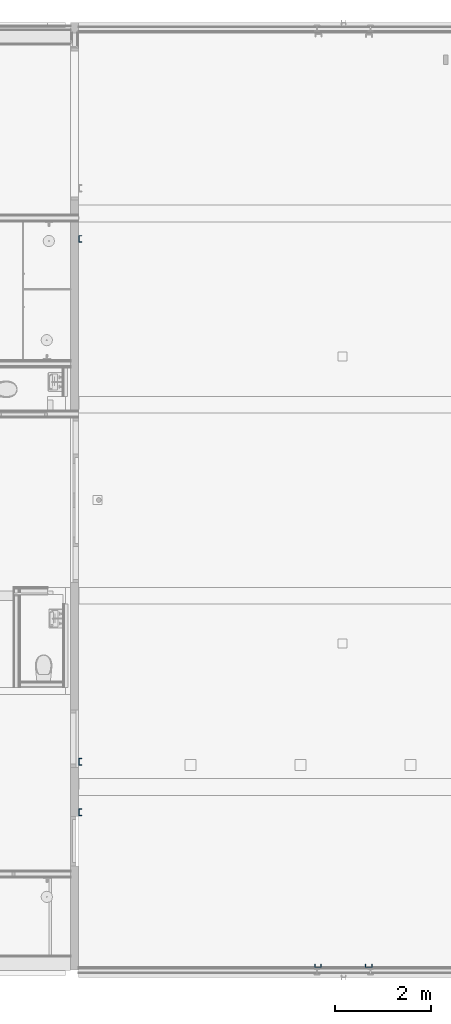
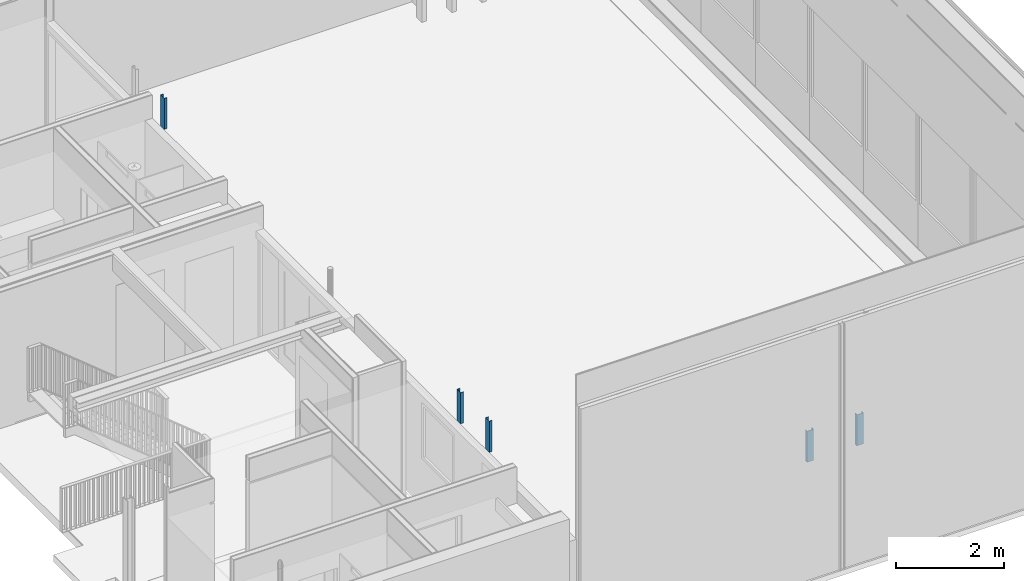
# One storey, part 4 of 35: 5 columns.
"""IFC2X3 building model written with IfcOpenShell, lengths in millimetres."""

from ifc_helpers import new_model, entity, si_unit, converted_unit, derived_unit, money_unit, direction, frame, origin_with_axes, place, context, subcontext, project, spatial, faceted_brep, material, type_object, element, save


model = new_model("IFC2X3")

# Units and contexts
model_context = context("Model", 3, precision=0.01, world=origin_with_axes(), true_north=direction((0.0, 1.0)))
body_context = subcontext(model_context, "Body", "Model", "MODEL_VIEW")
ifc_project = project(units=[si_unit("LENGTHUNIT", "METRE", prefix="MILLI"), si_unit("AREAUNIT", "SQUARE_METRE"), si_unit("VOLUMEUNIT", "CUBIC_METRE"), converted_unit("PLANEANGLEUNIT", "DEGREE", entity("IfcPlaneAngleMeasure", 0.0174532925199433), si_unit("PLANEANGLEUNIT", "RADIAN"), dimensions=[0, 0, 0, 0, 0, 0, 0]), money_unit("EUR"), converted_unit("TIMEUNIT", "Year", entity("IfcTimeMeasure", 31557600.0), si_unit("TIMEUNIT", "SECOND"), dimensions=[0, 0, 1, 0, 0, 0, 0]), si_unit("MASSUNIT", "GRAM", prefix="KILO"), si_unit("THERMODYNAMICTEMPERATUREUNIT", "DEGREE_CELSIUS"), si_unit("LUMINOUSINTENSITYUNIT", "LUMEN"), si_unit("ENERGYUNIT", "JOULE", prefix="MEGA"), derived_unit("THERMALCONDUCTANCEUNIT", [(si_unit("POWERUNIT", "WATT"), 1), (si_unit("LENGTHUNIT", "METRE"), -1), (si_unit("THERMODYNAMICTEMPERATUREUNIT", "KELVIN"), -1)]), derived_unit("SPECIFICHEATCAPACITYUNIT", [(si_unit("ENERGYUNIT", "JOULE"), 1), (si_unit("MASSUNIT", "GRAM", prefix="KILO"), -1), (si_unit("THERMODYNAMICTEMPERATUREUNIT", "KELVIN"), -1)]), derived_unit("MASSDENSITYUNIT", [(si_unit("MASSUNIT", "GRAM", prefix="KILO"), 1), (si_unit("VOLUMEUNIT", "CUBIC_METRE"), -1)])], contexts=[model_context])

# Site, building, storey
site_placement = place(None, origin_with_axes())
site = spatial("IfcSite", under=ifc_project, at=site_placement, Name="<site naam>", CompositionType="ELEMENT")
building_placement = place(site_placement, origin_with_axes())
building = spatial("IfcBuilding", under=site, at=building_placement, Name="<Naam gebouw>", CompositionType="ELEMENT")
storey_placement = place(building_placement, frame((0.0, 0.0, 6345.0), z_axis=(0.0, 0.0, 1.0), x_axis=(1.0, 0.0, 0.0)))
storey = spatial("IfcBuildingStorey", under=building, at=storey_placement, Name="02 2e tussenverdieping", CompositionType="ELEMENT", Elevation=6345.0)

# Columns
ifc_material = material(Name="staal")
column_type = type_object("IfcColumnType", Name="Profiel UPN algemeen 60 x 140", PredefinedType="COLUMN")
column_1_placement = place(storey_placement, frame((58324.99985746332, 3399.99999999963, 2517.500000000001), z_axis=(0.0, 0.0, 1.0), x_axis=(-1.0, 0.0, 0.0)))
element("IfcColumn", 1, at=column_1_placement, inside=storey, type_object=column_type, material=ifc_material, Name="28_Kolom_Profiel", ObjectType="COLUMN", context=body_context, shape_type="Brep", body=[
    faceted_brep([(-60.00034390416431, -9.999999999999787, 699.9999999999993), (-60.00034390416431, -9.999999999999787, 0.0), (-6.999999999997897, -9.999999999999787, 0.0), (-6.999999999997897, -9.999999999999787, 699.9999999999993), (-60.00039303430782, 0.0, 699.9999999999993), (-60.00039303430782, 0.0, 0.0), (0.0, 0.0, 0.0), (0.0, -140.0006629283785, 0.0), (-60.00039303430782, -140.0006629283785, 0.0), (-60.00034390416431, -130.0006629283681, 0.0), (-6.999999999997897, -130.0006629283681, 0.0), (-6.999999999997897, -130.0006629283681, 699.9999999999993), (-60.00034390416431, -130.0006629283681, 699.9999999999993), (-60.00039303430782, -140.0006629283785, 699.9999999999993), (0.0, -140.0006629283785, 699.9999999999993), (0.0, 0.0, 699.9999999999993)], [[[0, 1, 2, 3]], [[4, 5, 1, 0]], [[2, 1, 5, 6, 7, 8, 9, 10]], [[3, 2, 10, 11]], [[4, 0, 3, 11, 12, 13, 14, 15]], [[15, 6, 5, 4]], [[14, 7, 6, 15]], [[13, 8, 7, 14]], [[12, 9, 8, 13]], [[11, 10, 9, 12]]]),
])
column_2_placement = place(storey_placement, frame((58324.99985746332, 4600.000000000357, 2517.500000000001), z_axis=(0.0, 0.0, 1.0), x_axis=(1.0, 0.0, 0.0)))
element("IfcColumn", 2, at=column_2_placement, inside=storey, type_object=column_type, material=ifc_material, Name="28_Kolom_Profiel", ObjectType="COLUMN", context=body_context, shape_type="Brep", body=[
    faceted_brep([(60.00039303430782, 0.0, 699.9999999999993), (60.00039303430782, 0.0, 0.0), (0.0, 0.0, 0.0), (0.0, 0.0, 699.9999999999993), (60.00034390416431, -9.999999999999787, 699.9999999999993), (60.00034390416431, -9.999999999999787, 0.0), (6.999999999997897, -9.999999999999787, 0.0), (6.999999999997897, -130.0006629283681, 0.0), (60.00034390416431, -130.0006629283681, 0.0), (60.00039303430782, -140.0006629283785, 0.0), (0.0, -140.0006629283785, 0.0), (0.0, -140.0006629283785, 699.9999999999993), (60.00039303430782, -140.0006629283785, 699.9999999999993), (60.00034390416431, -130.0006629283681, 699.9999999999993), (6.999999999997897, -130.0006629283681, 699.9999999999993), (6.999999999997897, -9.999999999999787, 699.9999999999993)], [[[0, 1, 2, 3]], [[4, 5, 1, 0]], [[2, 1, 5, 6, 7, 8, 9, 10]], [[3, 2, 10, 11]], [[4, 0, 3, 11, 12, 13, 14, 15]], [[15, 6, 5, 4]], [[14, 7, 6, 15]], [[13, 8, 7, 14]], [[12, 9, 8, 13]], [[11, 10, 9, 12]]]),
])
column_3_placement = place(storey_placement, frame((58324.99985746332, 15400.00066292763, 2517.500000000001), z_axis=(0.0, 0.0, 1.0), x_axis=(-1.0, 0.0, 0.0)))
element("IfcColumn", 3, at=column_3_placement, inside=storey, type_object=column_type, material=ifc_material, Name="28_Kolom_Profiel", ObjectType="COLUMN", context=body_context, shape_type="Brep", body=[
    faceted_brep([(-60.00034390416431, -9.999999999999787, 699.9999999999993), (-60.00034390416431, -9.999999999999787, 0.0), (-6.999999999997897, -9.999999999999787, 0.0), (-6.999999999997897, -9.999999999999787, 699.9999999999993), (-60.00039303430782, 0.0, 699.9999999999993), (-60.00039303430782, 0.0, 0.0), (0.0, 0.0, 0.0), (0.0, -140.0006629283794, 0.0), (-60.00039303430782, -140.0006629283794, 0.0), (-60.00034390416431, -130.0006629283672, 0.0), (-6.999999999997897, -130.0006629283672, 0.0), (-6.999999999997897, -130.0006629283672, 699.9999999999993), (-60.00034390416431, -130.0006629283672, 699.9999999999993), (-60.00039303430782, -140.0006629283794, 699.9999999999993), (0.0, -140.0006629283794, 699.9999999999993), (0.0, 0.0, 699.9999999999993)], [[[0, 1, 2, 3]], [[4, 5, 1, 0]], [[2, 1, 5, 6, 7, 8, 9, 10]], [[3, 2, 10, 11]], [[4, 0, 3, 11, 12, 13, 14, 15]], [[15, 6, 5, 4]], [[14, 7, 6, 15]], [[13, 8, 7, 14]], [[12, 9, 8, 13]], [[11, 10, 9, 12]]]),
])
column_4_placement = place(storey_placement, frame((63265.06399396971, 225.9105791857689, 2487.999788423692), z_axis=(0.0, 0.0, 1.0), x_axis=(0.0, 1.0, 0.0)))
element("IfcColumn", 4, at=column_4_placement, inside=storey, type_object=column_type, material=ifc_material, Name="28_Kolom_Profiel", ObjectType="COLUMN", context=body_context, shape_type="Brep", body=[
    faceted_brep([(60.00024564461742, 0.0, 699.9999999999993), (60.00024564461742, 0.0, 0.0), (0.0, 0.0, 0.0), (0.0, 0.0, 699.9999999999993), (60.00019651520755, -9.99999999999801, 699.9999999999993), (60.00019651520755, -9.99999999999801, 0.0), (7.000000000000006, -9.99999999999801, 0.0), (6.999999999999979, -130.0006629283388, 0.0), (60.00019651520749, -130.0006629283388, 0.0), (60.00024564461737, -140.000662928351, 0.0), (0.0, -140.000662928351, 0.0), (0.0, -140.000662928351, 699.9999999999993), (60.00024564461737, -140.000662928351, 699.9999999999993), (60.00019651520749, -130.0006629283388, 699.9999999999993), (6.999999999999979, -130.0006629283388, 699.9999999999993), (7.000000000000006, -9.99999999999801, 699.9999999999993)], [[[0, 1, 2, 3]], [[4, 5, 1, 0]], [[2, 1, 5, 6, 7, 8, 9, 10]], [[3, 2, 10, 11]], [[4, 0, 3, 11, 12, 13, 14, 15]], [[15, 6, 5, 4]], [[14, 7, 6, 15]], [[13, 8, 7, 14]], [[12, 9, 8, 13]], [[11, 10, 9, 12]]]),
])
column_5_placement = place(storey_placement, frame((64465.06399397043, 225.9105791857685, 2487.999788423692), z_axis=(0.0, 0.0, 1.0), x_axis=(0.0, -1.0, 0.0)))
element("IfcColumn", 5, at=column_5_placement, inside=storey, type_object=column_type, material=ifc_material, Name="28_Kolom_Profiel", ObjectType="COLUMN", context=body_context, shape_type="Brep", body=[
    faceted_brep([(-60.00019651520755, -10.00000000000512, 699.9999999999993), (-60.00019651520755, -10.00000000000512, 0.0), (-6.999999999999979, -10.00000000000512, 0.0), (-6.999999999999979, -10.00000000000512, 699.9999999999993), (-60.00024564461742, 0.0, 699.9999999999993), (-60.00024564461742, 0.0, 0.0), (0.0, 0.0, 0.0), (0.0, -140.0006629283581, 0.0), (-60.00024564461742, -140.0006629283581, 0.0), (-60.00019651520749, -130.0006629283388, 0.0), (-7.000000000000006, -130.0006629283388, 0.0), (-7.000000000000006, -130.0006629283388, 699.9999999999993), (-60.00019651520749, -130.0006629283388, 699.9999999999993), (-60.00024564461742, -140.0006629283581, 699.9999999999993), (0.0, -140.0006629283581, 699.9999999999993), (0.0, 0.0, 699.9999999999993)], [[[0, 1, 2, 3]], [[4, 5, 1, 0]], [[2, 1, 5, 6, 7, 8, 9, 10]], [[3, 2, 10, 11]], [[4, 0, 3, 11, 12, 13, 14, 15]], [[15, 6, 5, 4]], [[14, 7, 6, 15]], [[13, 8, 7, 14]], [[12, 9, 8, 13]], [[11, 10, 9, 12]]]),
])

save(model, "model.ifc")
